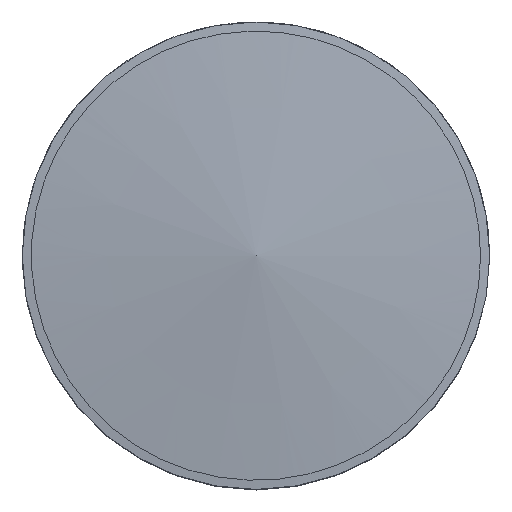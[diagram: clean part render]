
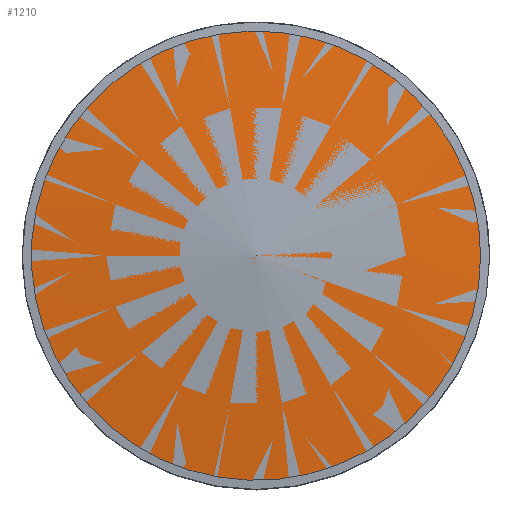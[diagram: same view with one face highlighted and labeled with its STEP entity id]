
A CAD part, top view. The second image highlights one B-rep face of the part: STEP entity #1210.
In plain terms, the highlighted conical face has half-angle 84.39 degrees and reference radius 10.18 mm.
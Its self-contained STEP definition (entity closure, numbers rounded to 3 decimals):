
#1043 = B_SPLINE_SURFACE_WITH_KNOTS('',1,13,(
    (#1044,#1045,#1046,#1047,#1048,#1049,#1050,#1051,#1052,#1053,#1054
      ,#1055,#1056,#1057)
    ,(#1058,#1059,#1060,#1061,#1062,#1063,#1064,#1065,#1066,#1067,#1068
      ,#1069,#1070,#1071
    )),.UNSPECIFIED.,.F.,.T.,.F.,(2,2),(14,14),(0.,63.963),(
    0.,63.963),.PIECEWISE_BEZIER_KNOTS.);
#1044 = CARTESIAN_POINT('',(10.18,0.,18.6));
#1045 = CARTESIAN_POINT('',(10.18,-4.849,18.6));
#1046 = CARTESIAN_POINT('',(7.674,-9.81,
    18.6));
#1047 = CARTESIAN_POINT('',(2.517,-13.357,
    18.6));
#1048 = CARTESIAN_POINT('',(-4.581,-13.902,
    18.6));
#1049 = CARTESIAN_POINT('',(-10.712,-10.121,
    18.6));
#1050 = CARTESIAN_POINT('',(-15.208,-4.602,
    18.6));
#1051 = CARTESIAN_POINT('',(-15.208,4.602,
    18.6));
#1052 = CARTESIAN_POINT('',(-10.712,10.121,
    18.6));
#1053 = CARTESIAN_POINT('',(-4.581,13.902,
    18.6));
#1054 = CARTESIAN_POINT('',(2.517,13.357,
    18.6));
#1055 = CARTESIAN_POINT('',(7.674,9.81,
    18.6));
#1056 = CARTESIAN_POINT('',(10.18,4.849,18.6));
#1057 = CARTESIAN_POINT('',(10.18,0.,18.6));
#1058 = CARTESIAN_POINT('',(9.782,0.,
    19.039));
#1059 = CARTESIAN_POINT('',(9.782,-4.659,
    19.039));
#1060 = CARTESIAN_POINT('',(7.374,-9.426,
    19.039));
#1061 = CARTESIAN_POINT('',(2.418,-12.835,
    19.039));
#1062 = CARTESIAN_POINT('',(-4.401,-13.358,
    19.039));
#1063 = CARTESIAN_POINT('',(-10.293,-9.725,
    19.039));
#1064 = CARTESIAN_POINT('',(-14.613,-4.422,
    19.039));
#1065 = CARTESIAN_POINT('',(-14.613,4.422,
    19.039));
#1066 = CARTESIAN_POINT('',(-10.293,9.725,
    19.039));
#1067 = CARTESIAN_POINT('',(-4.401,13.358,
    19.039));
#1068 = CARTESIAN_POINT('',(2.418,12.835,
    19.039));
#1069 = CARTESIAN_POINT('',(7.374,9.426,
    19.039));
#1070 = CARTESIAN_POINT('',(9.782,4.659,19.039
    ));
#1071 = CARTESIAN_POINT('',(9.782,0.,
    19.039));
#1083 = VERTEX_POINT('',#1084);
#1084 = CARTESIAN_POINT('',(9.782,0.,
    19.039));
#1102 = EDGE_CURVE('',#1083,#1083,#1103,.T.);
#1103 = SURFACE_CURVE('',#1104,(#1119,#1126),.PCURVE_S1.);
#1104 = B_SPLINE_CURVE_WITH_KNOTS('',13,(#1105,#1106,#1107,#1108,#1109,
    #1110,#1111,#1112,#1113,#1114,#1115,#1116,#1117,#1118),
  .UNSPECIFIED.,.T.,.F.,(14,14),(0.,63.963),
  .PIECEWISE_BEZIER_KNOTS.);
#1105 = CARTESIAN_POINT('',(9.782,0.,
    19.039));
#1106 = CARTESIAN_POINT('',(9.782,-4.659,
    19.039));
#1107 = CARTESIAN_POINT('',(7.374,-9.426,
    19.039));
#1108 = CARTESIAN_POINT('',(2.418,-12.835,
    19.039));
#1109 = CARTESIAN_POINT('',(-4.401,-13.358,
    19.039));
#1110 = CARTESIAN_POINT('',(-10.293,-9.725,
    19.039));
#1111 = CARTESIAN_POINT('',(-14.613,-4.422,
    19.039));
#1112 = CARTESIAN_POINT('',(-14.613,4.422,
    19.039));
#1113 = CARTESIAN_POINT('',(-10.293,9.725,
    19.039));
#1114 = CARTESIAN_POINT('',(-4.401,13.358,
    19.039));
#1115 = CARTESIAN_POINT('',(2.418,12.835,
    19.039));
#1116 = CARTESIAN_POINT('',(7.374,9.426,
    19.039));
#1117 = CARTESIAN_POINT('',(9.782,4.659,19.039
    ));
#1118 = CARTESIAN_POINT('',(9.782,0.,
    19.039));
#1119 = PCURVE('',#1043,#1120);
#1120 = DEFINITIONAL_REPRESENTATION('',(#1121),#1125);
#1121 = LINE('',#1122,#1123);
#1122 = CARTESIAN_POINT('',(63.963,0.));
#1123 = VECTOR('',#1124,1.);
#1124 = DIRECTION('',(0.,1.));
#1125 = ( GEOMETRIC_REPRESENTATION_CONTEXT(2) 
PARAMETRIC_REPRESENTATION_CONTEXT() REPRESENTATION_CONTEXT('2D SPACE',''
  ) );
#1126 = PCURVE('',#1127,#1132);
#1127 = CONICAL_SURFACE('',#1128,10.18,1.473);
#1128 = AXIS2_PLACEMENT_3D('',#1129,#1130,#1131);
#1129 = CARTESIAN_POINT('',(0.,0.,19.));
#1130 = DIRECTION('',(0.,0.,-1.));
#1131 = DIRECTION('',(1.,0.,0.));
#1132 = DEFINITIONAL_REPRESENTATION('',(#1133),#1154);
#1133 = B_SPLINE_CURVE_WITH_KNOTS('',10,(#1134,#1135,#1136,#1137,#1138,
    #1139,#1140,#1141,#1142,#1143,#1144,#1145,#1146,#1147,#1148,#1149,
    #1150,#1151,#1152,#1153),.UNSPECIFIED.,.F.,.F.,(11,9,11),(
    0.,31.981,63.963),.UNSPECIFIED.);
#1134 = CARTESIAN_POINT('',(0.,-0.039));
#1135 = CARTESIAN_POINT('',(0.31,-0.039));
#1136 = CARTESIAN_POINT('',(0.624,-0.039));
#1137 = CARTESIAN_POINT('',(0.94,-0.039));
#1138 = CARTESIAN_POINT('',(1.257,-0.039));
#1139 = CARTESIAN_POINT('',(1.57,-0.039));
#1140 = CARTESIAN_POINT('',(1.885,-0.039));
#1141 = CARTESIAN_POINT('',(2.199,-0.039));
#1142 = CARTESIAN_POINT('',(2.513,-0.039));
#1143 = CARTESIAN_POINT('',(2.827,-0.039));
#1144 = CARTESIAN_POINT('',(3.456,-0.039));
#1145 = CARTESIAN_POINT('',(3.77,-0.039));
#1146 = CARTESIAN_POINT('',(4.084,-0.039));
#1147 = CARTESIAN_POINT('',(4.398,-0.039));
#1148 = CARTESIAN_POINT('',(4.713,-0.039));
#1149 = CARTESIAN_POINT('',(5.027,-0.039));
#1150 = CARTESIAN_POINT('',(5.344,-0.039));
#1151 = CARTESIAN_POINT('',(5.659,-0.039));
#1152 = CARTESIAN_POINT('',(5.974,-0.039));
#1153 = CARTESIAN_POINT('',(6.283,-0.039));
#1154 = ( GEOMETRIC_REPRESENTATION_CONTEXT(2) 
PARAMETRIC_REPRESENTATION_CONTEXT() REPRESENTATION_CONTEXT('2D SPACE',''
  ) );
#1210 = ADVANCED_FACE('',(#1211),#1127,.T.);
#1211 = FACE_BOUND('',#1212,.F.);
#1212 = EDGE_LOOP('',(#1213,#1236,#1237));
#1213 = ORIENTED_EDGE('',*,*,#1214,.F.);
#1214 = EDGE_CURVE('',#1083,#1215,#1217,.T.);
#1215 = VERTEX_POINT('',#1216);
#1216 = CARTESIAN_POINT('',(0.,0.,20.));
#1217 = SEAM_CURVE('',#1218,(#1222,#1229),.PCURVE_S1.);
#1218 = LINE('',#1219,#1220);
#1219 = CARTESIAN_POINT('',(10.18,0.,19.));
#1220 = VECTOR('',#1221,1.);
#1221 = DIRECTION('',(-0.995,0.,
    0.098));
#1222 = PCURVE('',#1127,#1223);
#1223 = DEFINITIONAL_REPRESENTATION('',(#1224),#1228);
#1224 = LINE('',#1225,#1226);
#1225 = CARTESIAN_POINT('',(0.,-0.));
#1226 = VECTOR('',#1227,1.);
#1227 = DIRECTION('',(0.,-1.));
#1228 = ( GEOMETRIC_REPRESENTATION_CONTEXT(2) 
PARAMETRIC_REPRESENTATION_CONTEXT() REPRESENTATION_CONTEXT('2D SPACE',''
  ) );
#1229 = PCURVE('',#1127,#1230);
#1230 = DEFINITIONAL_REPRESENTATION('',(#1231),#1235);
#1231 = LINE('',#1232,#1233);
#1232 = CARTESIAN_POINT('',(6.283,-0.));
#1233 = VECTOR('',#1234,1.);
#1234 = DIRECTION('',(0.,-1.));
#1235 = ( GEOMETRIC_REPRESENTATION_CONTEXT(2) 
PARAMETRIC_REPRESENTATION_CONTEXT() REPRESENTATION_CONTEXT('2D SPACE',''
  ) );
#1236 = ORIENTED_EDGE('',*,*,#1102,.T.);
#1237 = ORIENTED_EDGE('',*,*,#1214,.T.);
